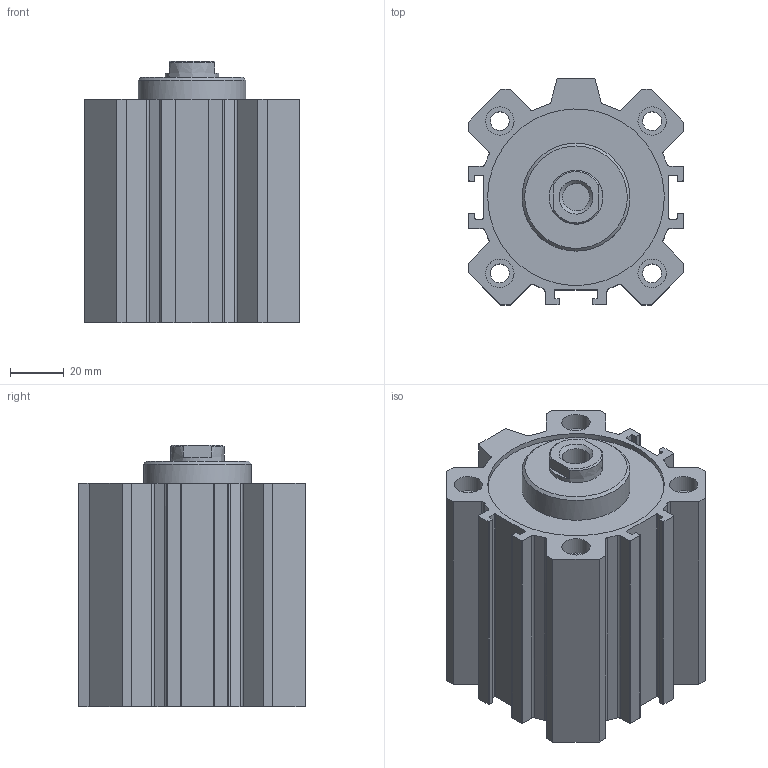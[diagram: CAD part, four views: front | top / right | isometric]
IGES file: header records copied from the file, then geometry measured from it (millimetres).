
Global section: file name: 1511_63_0040; native system: Autodesk Inventor 2014; preprocessor: unknown; author: A. Manieri; date: 20160824.140121; units: millimetre
Bounding box: 80 x 84 x 97 mm (x, y, z)
Volume: 318396.6 mm3; surface area: 86814.4 mm2
Topology: 2 solids, 2 shells, 165 faces, 443 edges, 300 vertices
Faces by surface type: bspline 165
